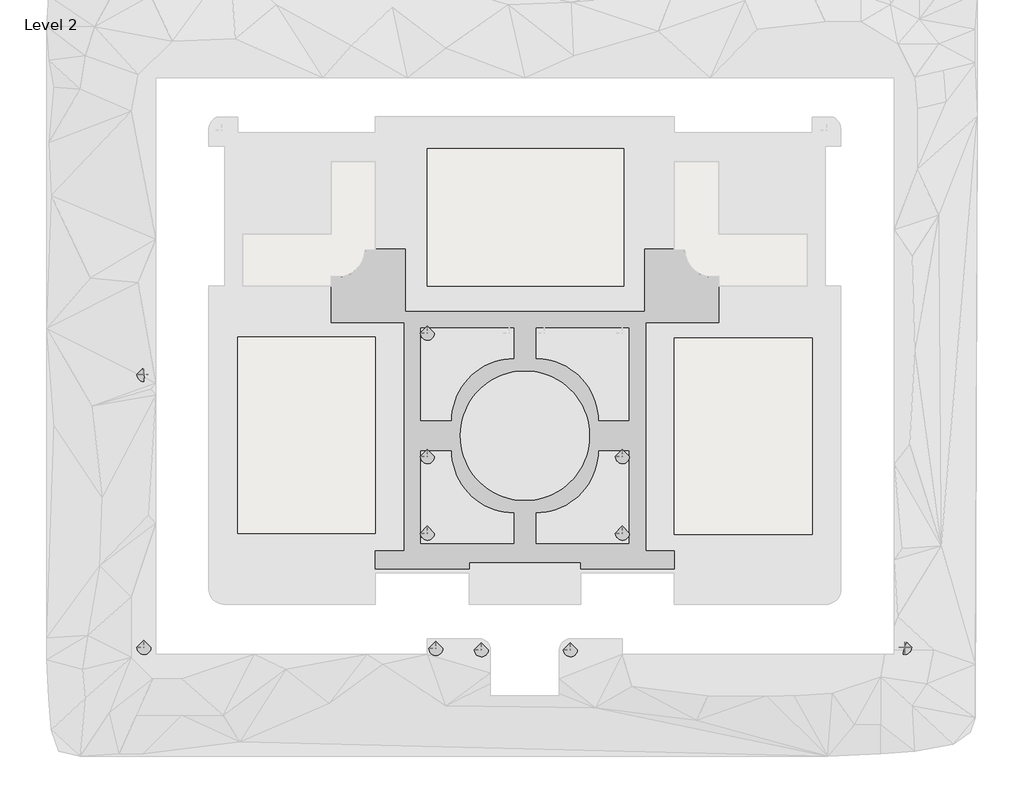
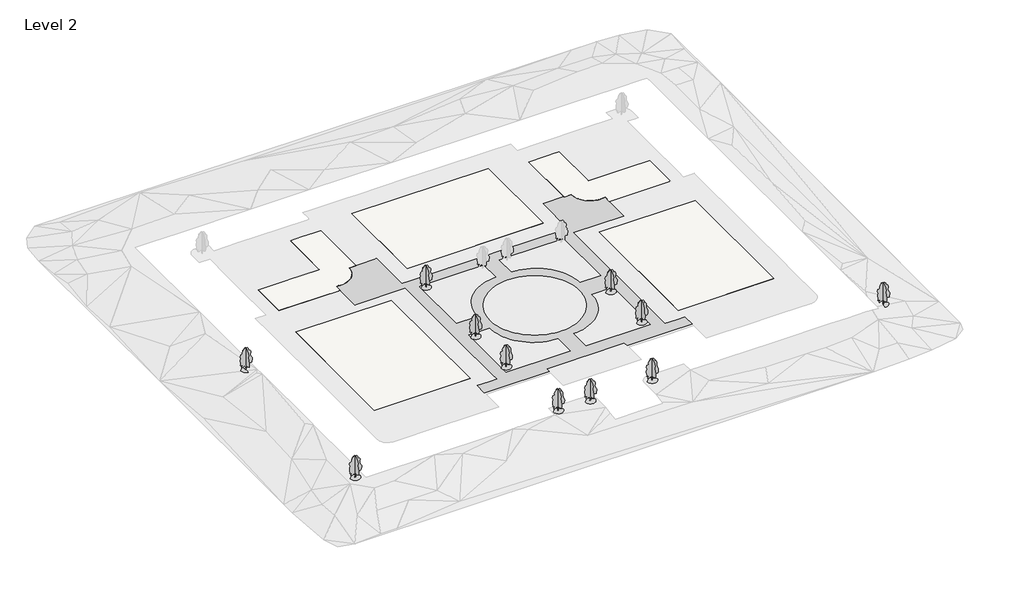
# One storey, part 1 of 3: 11 geographic elements, 5 slabs, 1 proxy.
"""IFC4 building model written with IfcOpenShell, lengths in millimetres."""

from ifc_helpers import new_model, si_unit, point, frame, frame_2d, origin, place, context, project, spatial, polyline, circle_curve, trimmed, segment, composite_curve, outline, extrude, triangles, transform, mapped, element, save
from components import rpc_tree_deciduous_red_ash_25_14781bec

model = new_model("IFC4")

# Units and contexts
model_context = context("Model", 3, world=origin())
ifc_project = project(units=[si_unit("LENGTHUNIT", "METRE", prefix="MILLI")], contexts=[model_context])

# Site, building, storey
site = spatial("IfcSite", under=ifc_project)
building = spatial("IfcBuilding", under=site)
storey = spatial("IfcBuildingStorey", under=building, Name="Level 2", Elevation=3048.0)

# Proxy
placement = place(None, origin())
element("IfcBuildingElementProxy", 1, Name="Building Element Proxy", at=placement, inside=storey, context=model_context, shape_type="Tessellation", body=[
    triangles([(51255.215625, -71375.9223633, 3048.0), (51255.215625, -56796.8169067, 3048.0), (44244.815625, -56796.8169067, 3048.0), (44244.815625, -56938.2175781, 3048.0), (42630.211853, -56938.2175781, 3048.0), (42602.7112061, -56938.2175781, 3048.0), (42500.4755859, -56938.2175781, 3048.0), (41806.415625, -56938.2175781, 3048.0), (41769.8876221, -57407.0540771, 3048.0), (41747.0192505, -57700.5849976, 3048.0), (41678.1071777, -58045.1918701, 3048.0), (41597.0702637, -58450.4182983, 3048.0), (41529.767395, -58655.5732178, 3048.0), (41399.5102295, -59052.6327026, 3048.0), (41358.7080688, -59176.9972046, 3048.0), (41078.8879395, -59776.635022, 3048.0), (41035.3464111, -59869.9409546, 3048.0), (40664.7504272, -60466.0208496, 3048.0), (40636.1056641, -60512.0924561, 3048.0), (40631.5989624, -60519.3431763, 3048.0), (40158.8510742, -61108.9211426, 3048.0), (40157.6232422, -61110.6233643, 3048.0), (40156.7163208, -61111.5860962, 3048.0), (40153.2421143, -61115.9207153, 3048.0), (40145.3960815, -61123.6086182, 3048.0), (39628.5299561, -61672.533252, 3048.0), (39031.3012939, -62161.4010864, 3048.0), (38375.9319946, -62569.0366699, 3048.0), (37673.4051086, -62888.621814, 3048.0), (36935.4873596, -63114.7940552, 3048.0), (36174.5384583, -63243.7629272, 3048.0), (35403.3041382, -63273.3797241, 3048.0), (34634.7068665, -63203.1375, 3048.0), (33881.6179504, -63034.2175781, 3048.0), (33881.6179504, -65472.6175781, 3048.0), (33881.6179504, -74007.0175781, 3048.0), (50950.415625, -74007.0175781, 3048.0), (50950.415625, -105025.952124, 3048.0), (50950.415625, -125158.2488525, 3048.0), (50950.415625, -127596.6488525, 3048.0), (48649.090979, -127596.6488525, 3048.0), (44244.815625, -127596.6488525, 3048.0), (44244.815625, -131815.7401611, 3048.0), (48218.9079346, -131815.7401611, 3048.0), (66190.415625, -131815.7401611, 3048.0), (66190.415625, -130291.7401611, 3048.0), (73251.2776611, -130291.7401611, 3048.0), (78636.6977783, -130291.7401611, 3048.0), (79296.815625, -130291.7401611, 3048.0), (92403.215625, -130291.7401611, 3048.0), (92403.215625, -131815.7401611, 3048.0), (106690.8737549, -131815.7401611, 3048.0), (114348.815625, -131815.7401611, 3048.0), (114348.815625, -127596.6488525, 3048.0), (111948.9993164, -127596.6488525, 3048.0), (107643.215625, -127596.6488525, 3048.0), (107643.215625, -125158.2488525, 3048.0), (107643.215625, -74007.0175781, 3048.0), (124712.015625, -74007.0175781, 3048.0), (124712.015625, -65472.6175781, 3048.0), (124712.015625, -63034.2175781, 3048.0), (123958.926709, -63203.1375, 3048.0), (123190.3317627, -63273.3797241, 3048.0), (122419.0951172, -63243.7629272, 3048.0), (121658.1462158, -63114.7940552, 3048.0), (120920.2284668, -62888.621814, 3048.0), (120217.7039063, -62569.0366699, 3048.0), (119562.3299561, -62161.4010864, 3048.0), (118965.1012939, -61672.533252, 3048.0), (118448.2398193, -61123.6086182, 3048.0), (118440.3891357, -61115.9207153, 3048.0), (118436.9195801, -61111.5860962, 3048.0), (118436.0080078, -61110.6233643, 3048.0), (118434.7801758, -61108.9211426, 3048.0), (117962.0369385, -60519.3431763, 3048.0), (117957.5255859, -60512.0924561, 3048.0), (117928.8854736, -60466.0208496, 3048.0), (117558.2848389, -59869.9409546, 3048.0), (117514.7433105, -59776.635022, 3048.0), (117234.927832, -59176.9972046, 3048.0), (117194.1210205, -59052.6327026, 3048.0), (117063.8685059, -58655.5732178, 3048.0), (116996.5609863, -58450.4182983, 3048.0), (116915.5240723, -58045.1918701, 3048.0), (116846.6166504, -57700.5849976, 3048.0), (116823.7436279, -57407.0540771, 3048.0), (116787.215625, -56938.2175781, 3048.0), (116093.1556641, -56938.2175781, 3048.0), (115990.9200439, -56938.2175781, 3048.0), (115963.4240479, -56938.2175781, 3048.0), (114348.815625, -56938.2175781, 3048.0), (114348.815625, -56796.8169067, 3048.0), (107338.415625, -56796.8169067, 3048.0), (107338.415625, -71375.9223633, 3048.0), (84620.3325439, -71375.9223633, 3048.0), (79296.815625, -71375.9223633, 3048.0), (67109.4758057, -71375.9223633, 3048.0), (54381.4015503, -71375.9223633, 3048.0), (64056.815625, -100524.6175781, 3048.0), (64106.2358643, -99298.3017334, 3048.0), (64254.1710205, -98079.9481934, 3048.0), (64499.6630127, -96877.4448486, 3048.0), (64841.1212402, -95698.595874, 3048.0), (65276.3318848, -94551.0473145, 3048.0), (65802.4672119, -93442.2312744, 3048.0), (66416.1181274, -92379.3566162, 3048.0), (67113.3081299, -91369.3066406, 3048.0), (67889.5119141, -90418.6297852, 3048.0), (68739.697229, -89533.4931152, 3048.0), (68980.1430176, -89320.4735596, 3048.0), (69658.3481323, -88719.6358154, 3048.0), (70639.511499, -87982.3412842, 3048.0), (71676.815625, -87326.390625, 3048.0), (72763.5446411, -86756.0347412, 3048.0), (73892.6385132, -86274.9664307, 3048.0), (75056.7814087, -85886.3203857, 3048.0), (76248.4249512, -85592.6080811, 3048.0), (77459.8393799, -85395.736377, 3048.0), (78683.1600586, -85296.9796143, 3048.0), (79910.4711914, -85296.9796143, 3048.0), (81133.7918701, -85395.736377, 3048.0), (82345.2062988, -85592.6080811, 3048.0), (83156.1521484, -85792.4842529, 3048.0), (83536.8544922, -85886.3203857, 3048.0), (84700.9973877, -86274.9664307, 3048.0), (85830.0912598, -86756.0347412, 3048.0), (86916.815625, -87326.390625, 3048.0), (87954.119751, -87982.3412842, 3048.0), (88935.2877686, -88719.6358154, 3048.0), (89853.9386719, -89533.4931152, 3048.0), (90704.1193359, -90418.6297852, 3048.0), (91480.3231201, -91369.3066406, 3048.0), (92177.5177734, -92379.3566162, 3048.0), (92791.1640381, -93442.2312744, 3048.0), (93317.2993652, -94551.0473145, 3048.0), (93752.5100098, -95698.595874, 3048.0), (94093.9682373, -96877.4448486, 3048.0), (94339.4602295, -98079.9481934, 3048.0), (94487.3953857, -99298.3017334, 3048.0), (94536.815625, -100524.6175781, 3048.0), (94487.3953857, -101750.9241211, 3048.0), (94339.4602295, -102969.2869629, 3048.0), (94093.9682373, -104171.7903076, 3048.0), (93752.5100098, -105350.6392822, 3048.0), (93317.2993652, -106498.1878418, 3048.0), (92791.1640381, -107606.9945801, 3048.0), (92177.5177734, -108669.87854, 3048.0), (91480.3231201, -109679.9285156, 3048.0), (90704.1193359, -110630.6053711, 3048.0), (89853.9386719, -111515.742041, 3048.0), (88935.2877686, -112329.5993408, 3048.0), (87954.119751, -113066.8938721, 3048.0), (86916.815625, -113722.8445312, 3048.0), (85830.0912598, -114293.200415, 3048.0), (84700.9973877, -114774.2594238, 3048.0), (83536.8544922, -115162.9147705, 3048.0), (82345.2062988, -115456.6270752, 3048.0), (81133.7918701, -115653.4987793, 3048.0), (80115.0354492, -115735.7449219, 3048.0), (79910.4711914, -115752.255542, 3048.0), (78683.1600586, -115752.255542, 3048.0), (77459.8393799, -115653.4987793, 3048.0), (76248.4249512, -115456.6270752, 3048.0), (75056.7814087, -115162.9147705, 3048.0), (73892.6385132, -114774.2594238, 3048.0), (72763.5446411, -114293.200415, 3048.0), (71676.815625, -113722.8445312, 3048.0), (71513.2349121, -113619.3996826, 3048.0), (70639.511499, -113066.8938721, 3048.0), (69658.3481323, -112329.5993408, 3048.0), (68739.697229, -111515.742041, 3048.0), (67889.5119141, -110630.6053711, 3048.0), (67113.3081299, -109679.9285156, 3048.0), (66416.1181274, -108669.87854, 3048.0), (65802.4672119, -107606.9945801, 3048.0), (65276.3318848, -106498.1878418, 3048.0), (64841.1212402, -105350.6392822, 3048.0), (64499.6630127, -104171.7903076, 3048.0), (64254.1710205, -102969.2869629, 3048.0), (64106.2358643, -101750.9241211, 3048.0), (81849.3667969, -75146.6084839, 3048.0), (84237.369873, -75146.6084839, 3048.0), (103794.9667969, -75146.6084839, 3048.0), (103794.9667969, -97092.203833, 3048.0), (96479.7667969, -97092.203833, 3048.0), (96429.7977539, -95884.0357178, 3048.0), (96280.23479, -94684.1182617, 3048.0), (96032.0824951, -93500.6556152, 3048.0), (95687.0523926, -92341.7217041, 3048.0), (95247.4978271, -91215.241626, 3048.0), (94716.4232666, -90128.9079346, 3048.0), (94097.4470947, -89090.1341309, 3048.0), (93394.8109131, -88106.0267578, 3048.0), (92613.305127, -87183.3016846, 3048.0), (91758.2689453, -86328.2748047, 3048.0), (90835.5438721, -85546.7690186, 3048.0), (89851.436499, -84844.1235352, 3048.0), (88812.6719971, -84225.156665, 3048.0), (87726.3383057, -83694.0728027, 3048.0), (86599.8489258, -83254.5182373, 3048.0), (85440.9243164, -82909.4974365, 3048.0), (84257.4523682, -82661.3451416, 3048.0), (83483.9460937, -82564.9324219, 3048.0), (83057.5349121, -82511.772876, 3048.0), (81849.3667969, -82461.803833, 3048.0), (76744.2644531, -75146.6084839, 3048.0), (76744.2644531, -82461.803833, 3048.0), (75536.0963379, -82511.772876, 3048.0), (74336.1788818, -82661.3451416, 3048.0), (73152.7115845, -82909.4974365, 3048.0), (71993.7823242, -83254.5182373, 3048.0), (70867.2975952, -83694.0728027, 3048.0), (69780.9639038, -84225.156665, 3048.0), (68742.194751, -84844.1235352, 3048.0), (68529.3379761, -84996.1049561, 3048.0), (67758.0873779, -85546.7690186, 3048.0), (66835.3623047, -86328.2748047, 3048.0), (65980.3307739, -87183.3016846, 3048.0), (65198.8249878, -88106.0267578, 3048.0), (64496.1841553, -89090.1341309, 3048.0), (63877.2126343, -90128.9079346, 3048.0), (63346.1334229, -91215.241626, 3048.0), (62906.5788574, -92341.7217041, 3048.0), (62561.5487549, -93500.6556152, 3048.0), (62313.4057617, -94684.1182617, 3048.0), (62163.8334961, -95884.0357178, 3048.0), (62113.8644531, -97092.203833, 3048.0), (54798.6644531, -97092.203833, 3048.0), (54798.6644531, -75146.6084839, 3048.0), (67502.5587891, -75146.6084839, 3048.0), (76744.2644531, -125902.6220215, 3048.0), (72793.7288452, -125902.6220215, 3048.0), (54798.6644531, -125902.6220215, 3048.0), (54798.6644531, -103957.0220215, 3048.0), (62113.8644531, -103957.0220215, 3048.0), (62163.8334961, -105165.1994385, 3048.0), (62313.4057617, -106365.1075928, 3048.0), (62561.5487549, -107548.579541, 3048.0), (62906.5788574, -108707.5134521, 3048.0), (63346.1334229, -109833.9935303, 3048.0), (63877.2126343, -110920.3272217, 3048.0), (64496.1841553, -111959.1010254, 3048.0), (65198.8249878, -112943.2083984, 3048.0), (65980.3307739, -113865.9241699, 3048.0), (66835.3623047, -114720.9603516, 3048.0), (67758.0873779, -115502.4661377, 3048.0), (68742.194751, -116205.1023193, 3048.0), (69780.9639038, -116824.0784912, 3048.0), (70867.2975952, -117355.1530518, 3048.0), (71946.5805542, -117776.2901367, 3048.0), (71993.7823242, -117794.7076172, 3048.0), (73152.7115845, -118139.7377197, 3048.0), (74336.1788818, -118387.8900146, 3048.0), (75536.0963379, -118537.4529785, 3048.0), (76744.2644531, -118587.4220215, 3048.0), (81849.3667969, -125902.6220215, 3048.0), (81849.3667969, -118587.4220215, 3048.0), (83057.5349121, -118537.4529785, 3048.0), (84257.4523682, -118387.8900146, 3048.0), (85440.9243164, -118139.7377197, 3048.0), (86599.8489258, -117794.7076172, 3048.0), (87726.3383057, -117355.1530518, 3048.0), (88812.6719971, -116824.0784912, 3048.0), (89851.436499, -116205.1023193, 3048.0), (90835.5438721, -115502.4661377, 3048.0), (91758.2689453, -114720.9603516, 3048.0), (92613.305127, -113865.9241699, 3048.0), (93394.8109131, -112943.2083984, 3048.0), (94097.4470947, -111959.1010254, 3048.0), (94716.4232666, -110920.3272217, 3048.0), (95247.4978271, -109833.9935303, 3048.0), (95687.0523926, -108707.5134521, 3048.0), (96032.0824951, -107548.579541, 3048.0), (96280.23479, -106365.1075928, 3048.0), (96429.7977539, -105165.1994385, 3048.0), (96479.7667969, -103957.0220215, 3048.0), (103794.9667969, -103957.0220215, 3048.0), (103794.9667969, -125902.6220215, 3048.0)], [[42, 43, 44], [44, 41, 42], [41, 44, 40], [39, 40, 233], [40, 44, 233], [44, 45, 233], [240, 175, 239], [233, 38, 39], [174, 240, 241], [241, 242, 173], [237, 238, 176], [176, 177, 237], [175, 176, 239], [176, 238, 239], [237, 177, 236], [242, 243, 172], [236, 177, 178], [38, 234, 228], [233, 234, 38], [228, 235, 227], [235, 228, 234], [228, 37, 38], [103, 225, 226], [225, 104, 224], [102, 226, 227], [227, 235, 99], [100, 227, 99], [178, 179, 235], [235, 180, 99], [101, 102, 227], [227, 100, 101], [224, 104, 223], [103, 226, 102], [103, 104, 225], [180, 235, 179], [236, 178, 235], [46, 232, 233], [166, 249, 250], [168, 247, 248], [167, 248, 249], [169, 246, 247], [166, 250, 251], [232, 47, 231], [47, 232, 46], [255, 231, 257], [48, 231, 47], [164, 252, 253], [163, 254, 255], [161, 162, 255], [253, 254, 164], [251, 252, 165], [255, 162, 163], [172, 244, 171], [173, 242, 172], [244, 245, 171], [173, 174, 241], [223, 105, 222], [240, 174, 175], [104, 105, 223], [243, 244, 172], [167, 249, 166], [165, 252, 164], [251, 165, 166], [170, 171, 245], [169, 170, 246], [247, 168, 169], [245, 246, 170], [168, 248, 167], [254, 163, 164], [45, 46, 233], [222, 105, 106], [31, 35, 30], [31, 32, 35], [35, 36, 29], [35, 32, 33], [33, 34, 35], [29, 30, 35], [36, 28, 29], [1, 27, 28], [25, 26, 1], [27, 1, 26], [1, 28, 36], [1, 24, 25], [22, 23, 24], [20, 21, 22], [22, 24, 1], [20, 22, 1], [19, 20, 1], [17, 18, 1], [19, 1, 18], [15, 16, 4], [13, 14, 4], [12, 13, 4], [15, 4, 14], [17, 4, 16], [5, 10, 11], [4, 5, 11], [10, 7, 9], [11, 12, 4], [8, 9, 7], [7, 10, 6], [10, 5, 6], [3, 4, 2], [4, 17, 1], [37, 1, 36], [222, 106, 221], [221, 107, 220], [106, 107, 221], [220, 107, 108], [220, 108, 219], [218, 219, 108], [110, 217, 218], [218, 108, 109], [110, 111, 217], [217, 111, 216], [110, 218, 109], [214, 112, 113], [210, 115, 116], [211, 114, 115], [212, 113, 114], [216, 111, 112], [208, 116, 117], [215, 112, 214], [112, 215, 216], [97, 230, 206], [1, 2, 4], [98, 229, 97], [98, 1, 37], [97, 229, 230], [229, 98, 37], [213, 113, 212], [115, 210, 211], [211, 212, 114], [214, 113, 213], [116, 209, 210], [116, 208, 209], [205, 206, 207], [207, 208, 117], [207, 118, 119], [207, 117, 118], [96, 97, 206], [37, 228, 229], [48, 49, 231], [257, 160, 255], [231, 256, 257], [158, 257, 157], [161, 255, 160], [159, 160, 257], [257, 158, 159], [157, 257, 258], [256, 231, 49], [156, 259, 260], [278, 256, 50], [49, 50, 256], [261, 262, 154], [264, 153, 263], [153, 262, 263], [260, 261, 155], [259, 156, 258], [152, 264, 265], [157, 258, 156], [155, 261, 154], [260, 155, 156], [153, 264, 152], [150, 151, 266], [265, 151, 152], [262, 153, 154], [269, 148, 149], [267, 149, 150], [150, 266, 267], [147, 148, 270], [191, 132, 133], [271, 146, 147], [133, 134, 190], [149, 267, 268], [151, 265, 266], [278, 50, 51], [269, 270, 148], [270, 271, 147], [271, 272, 146], [274, 144, 145], [272, 273, 145], [146, 272, 145], [274, 145, 273], [269, 149, 268], [52, 55, 56], [55, 52, 53], [53, 54, 55], [274, 275, 144], [278, 56, 57], [56, 278, 52], [278, 57, 277], [51, 52, 278], [144, 275, 143], [142, 143, 276], [140, 141, 276], [142, 276, 141], [135, 136, 187], [138, 139, 185], [137, 138, 185], [136, 137, 186], [140, 185, 139], [185, 276, 184], [186, 137, 185], [184, 277, 57], [277, 184, 276], [143, 275, 276], [134, 189, 190], [188, 189, 135], [135, 187, 188], [186, 187, 136], [185, 140, 276], [189, 134, 135], [191, 133, 190], [200, 125, 126], [197, 127, 128], [199, 126, 127], [205, 121, 122], [203, 122, 123], [124, 202, 123], [124, 125, 201], [194, 130, 131], [192, 131, 132], [132, 191, 192], [193, 131, 192], [129, 196, 128], [196, 129, 195], [130, 195, 129], [130, 194, 195], [131, 193, 194], [197, 128, 196], [207, 120, 205], [204, 122, 203], [202, 203, 123], [122, 204, 205], [181, 96, 206], [206, 205, 181], [96, 181, 95], [120, 121, 205], [95, 181, 182], [119, 120, 207], [125, 200, 201], [200, 126, 199], [201, 202, 124], [58, 94, 183], [93, 94, 91], [94, 95, 183], [183, 95, 182], [127, 198, 199], [127, 197, 198], [70, 71, 94], [94, 69, 70], [69, 94, 68], [67, 68, 94], [73, 75, 94], [71, 72, 73], [94, 71, 73], [75, 73, 74], [63, 64, 60], [66, 59, 60], [60, 64, 65], [63, 60, 62], [66, 67, 59], [61, 62, 60], [66, 60, 65], [67, 94, 59], [184, 58, 183], [88, 85, 86], [84, 85, 90], [91, 84, 90], [91, 83, 84], [85, 89, 90], [85, 88, 89], [86, 87, 88], [92, 93, 91], [91, 94, 78], [94, 76, 77], [77, 78, 94], [82, 83, 91], [80, 81, 91], [79, 80, 91], [82, 91, 81], [78, 79, 91], [75, 76, 94], [58, 59, 94], [57, 58, 184]], closed=False),
])

# Geographic elements
rpc_tree_deciduous_red_ash_25_shape = rpc_tree_deciduous_red_ash_25_14781bec(model_context)
element("IfcGeographicElement", 2, ObjectType="RPC Tree - Deciduous : Red Ash - 25'", at=placement, inside=storey, context=model_context, shape_type="MappedRepresentation", body=[
    mapped(rpc_tree_deciduous_red_ash_25_shape, transform((56436.8170127, -76445.4164442, 3048.0), x_axis=(1.0, 0.0, 0.0), y_axis=(0.0, 1.0, 0.0), z_axis=(0.0, 0.0, 1.0))),
])
element("IfcGeographicElement", 3, ObjectType="RPC Tree - Deciduous : Red Ash - 25'", at=placement, inside=storey, context=model_context, shape_type="MappedRepresentation", body=[
    mapped(rpc_tree_deciduous_red_ash_25_shape, transform((102156.8170127, -105401.4164442, 3048.0), x_axis=(1.0, 0.0, 0.0), y_axis=(0.0, 1.0, 0.0), z_axis=(0.0, 0.0, 1.0))),
])
element("IfcGeographicElement", 4, ObjectType="RPC Tree - Deciduous : Red Ash - 25'", at=placement, inside=storey, context=model_context, shape_type="MappedRepresentation", body=[
    mapped(rpc_tree_deciduous_red_ash_25_shape, transform((102156.8170127, -123384.6164442, 3048.0), x_axis=(1.0, 0.0, 0.0), y_axis=(0.0, 1.0, 0.0), z_axis=(0.0, 0.0, 1.0))),
])
element("IfcGeographicElement", 5, ObjectType="RPC Tree - Deciduous : Red Ash - 25'", at=placement, inside=storey, context=model_context, shape_type="MappedRepresentation", body=[
    mapped(rpc_tree_deciduous_red_ash_25_shape, transform((56436.8170127, -123384.6164442, 3048.0), x_axis=(1.0, 0.0, 0.0), y_axis=(0.0, 1.0, 0.0), z_axis=(0.0, 0.0, 1.0))),
])
element("IfcGeographicElement", 6, ObjectType="RPC Tree - Deciduous : Red Ash - 25'", at=placement, inside=storey, context=model_context, shape_type="MappedRepresentation", body=[
    mapped(rpc_tree_deciduous_red_ash_25_shape, transform((56436.8170127, -105401.4164442, 3048.0), x_axis=(1.0, 0.0, 0.0), y_axis=(0.0, 1.0, 0.0), z_axis=(0.0, 0.0, 1.0))),
])
element("IfcGeographicElement", 7, ObjectType="RPC Tree - Deciduous : Red Ash - 25'", at=placement, inside=storey, context=model_context, shape_type="MappedRepresentation", body=[
    mapped(rpc_tree_deciduous_red_ash_25_shape, transform((58418.0170127, -150386.3362599, 3048.0), x_axis=(1.0, 0.0, 0.0), y_axis=(0.0, 1.0, 0.0), z_axis=(0.0, 0.0, 1.0))),
])
element("IfcGeographicElement", 8, ObjectType="RPC Tree - Deciduous : Red Ash - 25'", at=placement, inside=storey, context=model_context, shape_type="MappedRepresentation", body=[
    mapped(rpc_tree_deciduous_red_ash_25_shape, transform((69086.0170127, -150698.0339005, 3048.0), x_axis=(1.0, 0.0, 0.0), y_axis=(0.0, 1.0, 0.0), z_axis=(0.0, 0.0, 1.0))),
])
element("IfcGeographicElement", 9, ObjectType="RPC Tree - Deciduous : Red Ash - 25'", at=placement, inside=storey, context=model_context, shape_type="MappedRepresentation", body=[
    mapped(rpc_tree_deciduous_red_ash_25_shape, transform((89964.8170127, -150698.0339005, 3048.0), x_axis=(1.0, 0.0, 0.0), y_axis=(0.0, 1.0, 0.0), z_axis=(0.0, 0.0, 1.0))),
])
element("IfcGeographicElement", 10, ObjectType="RPC Tree - Deciduous : Red Ash - 25'", at=placement, inside=storey, context=model_context, shape_type="MappedRepresentation", body=[
    mapped(rpc_tree_deciduous_red_ash_25_shape, transform((168298.4170127, -150207.0164442, 2476.2155994), x_axis=(1.0, 0.0, 0.0), y_axis=(0.0, 1.0, 0.0), z_axis=(0.0, 0.0, 1.0))),
])
element("IfcGeographicElement", 11, ObjectType="RPC Tree - Deciduous : Red Ash - 25'", at=placement, inside=storey, context=model_context, shape_type="MappedRepresentation", body=[
    mapped(rpc_tree_deciduous_red_ash_25_shape, transform((-10009.5829873, -150207.0164442, 3048.0), x_axis=(1.0, 0.0, 0.0), y_axis=(0.0, 1.0, 0.0), z_axis=(0.0, 0.0, 1.0))),
])
element("IfcGeographicElement", 12, ObjectType="RPC Tree - Deciduous : Red Ash - 25'", at=placement, inside=storey, context=model_context, shape_type="MappedRepresentation", body=[
    mapped(rpc_tree_deciduous_red_ash_25_shape, transform((-10009.5829873, -86199.0164442, 2734.7485751), x_axis=(1.0, 0.0, 0.0), y_axis=(0.0, 1.0, 0.0), z_axis=(0.0, 0.0, 1.0))),
])

# Slabs
element("IfcSlab", 13, ObjectType="Pad 1", at=placement, inside=storey, context=model_context, shape_type="SweptSolid", body=[
    extrude(outline(polyline([(44244.8170127, -77359.8164442), (44244.8170127, -123384.6164442), (11936.0170127, -123384.6164442), (11936.0170127, -77359.8164442), (44244.8170127, -77359.8164442)])), frame((0.0, 0.0, 2743.2), z_axis=(0.0, 0.0, 1.0), x_axis=(1.0, 0.0, 0.0)), (0.0, 0.0, 1.0), 304.8),
])
element("IfcSlab", 14, ObjectType="Pad 1", at=placement, inside=storey, context=model_context, shape_type="SweptSolid", body=[
    extrude(outline(polyline([(102461.6170127, -65472.6164442), (56436.8170127, -65472.6164442), (56436.8170127, -33163.8164442), (102461.6170127, -33163.8164442), (102461.6170127, -65472.6164442)])), frame((0.0, 0.0, 2743.2), z_axis=(0.0, 0.0, 1.0), x_axis=(1.0, 0.0, 0.0)), (0.0, 0.0, 1.0), 304.8),
])
element("IfcSlab", 15, ObjectType="Pad 1", at=placement, inside=storey, context=model_context, shape_type="SweptSolid", body=[
    extrude(outline(polyline([(114348.8170127, -123689.4164442), (114348.8170127, -77664.6164442), (146657.6170127, -77664.6164442), (146657.6170127, -123689.4164442), (114348.8170127, -123689.4164442)])), frame((0.0, 0.0, 2743.2), z_axis=(0.0, 0.0, 1.0), x_axis=(1.0, 0.0, 0.0)), (0.0, 0.0, 1.0), 304.8),
])
element("IfcSlab", 16, ObjectType="Pad 1", at=placement, inside=storey, context=model_context, shape_type="SweptSolid", body=[
    extrude(outline(composite_curve([segment(polyline([(13155.2170127, -53280.6164442), (33881.6170127, -53280.6164442), (33881.6170127, -36211.8164442), (44244.8170127, -36211.8164442), (44244.8170127, -56938.2164442), (41806.4170127, -56938.2164442)]), True, "CONTINUOUS"), segment(trimmed(circle_curve(frame_2d((35411.1232877, -56823.4546016)), 6396.3233275), [point((41806.4170127, -56938.2164442))], [point((33881.6170127, -63034.2164442))], False, "CARTESIAN"), True, "CONTINUOUS"), segment(polyline([(33881.6170127, -63034.2164442), (33881.6170127, -65472.6164442), (13155.2170127, -65472.6164442), (13155.2170127, -53280.6164442)]), True, "CONTINUOUS")], self_intersect=False)), frame((0.0, 0.0, 2743.2), z_axis=(0.0, 0.0, 1.0), x_axis=(1.0, 0.0, 0.0)), (0.0, 0.0, 1.0), 304.8),
])
element("IfcSlab", 17, ObjectType="Pad 1", at=placement, inside=storey, context=model_context, shape_type="SweptSolid", body=[
    extrude(outline(composite_curve([segment(polyline([(145438.4170127, -53280.6164442), (145438.4170127, -65472.6164442), (124712.0170127, -65472.6164442), (124712.0170127, -63034.2164442)]), True, "CONTINUOUS"), segment(trimmed(circle_curve(frame_2d((123182.5107377, -56823.4546016)), 6396.3233275), [point((124712.0170127, -63034.2164442))], [point((116787.2170127, -56938.2164442))], False, "CARTESIAN"), True, "CONTINUOUS"), segment(polyline([(116787.2170127, -56938.2164442), (114348.8170127, -56938.2164442), (114348.8170127, -36211.8164442), (124712.0170127, -36211.8164442), (124712.0170127, -53280.6164442), (145438.4170127, -53280.6164442)]), True, "CONTINUOUS")], self_intersect=False)), frame((0.0, 0.0, 2743.2), z_axis=(0.0, 0.0, 1.0), x_axis=(1.0, 0.0, 0.0)), (0.0, 0.0, 1.0), 304.8),
])

save(model, "model.ifc")
